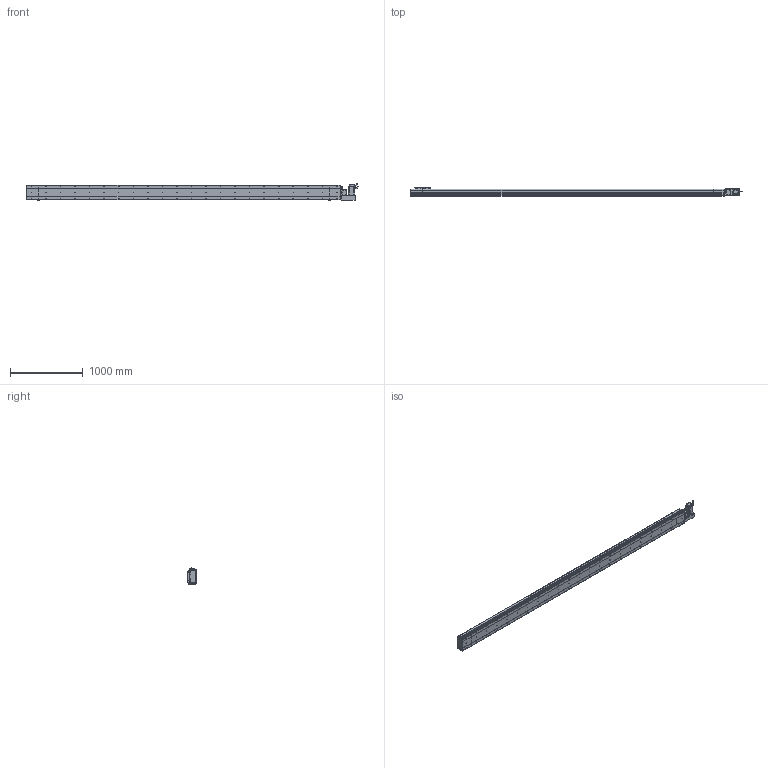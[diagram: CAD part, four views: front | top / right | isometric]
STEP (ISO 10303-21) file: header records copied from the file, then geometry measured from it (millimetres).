
FILE_DESCRIPTION (( 'STEP AP214' ), '1' );
FILE_NAME ('D20 CBH RH S4000.STEP', '2010-06-30T11:19:16', ( 'Conseil Régional Haute-Normandie' ), ( 'Conseil Régional Haute-Normandie' ), 'SwSTEP 2.0', 'SolidWorks 2010', '' );
FILE_SCHEMA (( 'AUTOMOTIVE_DESIGN' ));
Length unit declared in the file: millimetre
Products named in the file (31): Conecteur2_Default; Corp Tail D20 RH_Default; Conecteur_Default; vis M5 L30_Default; Cache Support Moteur RH_Default; vis M5 L15_Default; Couvercle RH_Default; Plaque de Bout Head D20 RH_Default; Head D20 RH_Default; Moteur motionking 90BLDC125A-640; avant 90BLDC125A-640; Corp D20 S4000_Default; Corp S4000_Default; vis M5 L47_Default; Couvercle S4000_Default; Chariot D20_Default; Glissiere_Default; Support Chariot D20_Default; Corp Tail D20_Default; Tail D20_Default; Couvercle_Default; Plaque De Serrage D20_Default; Plaque de Bout Tail D20_Default; corps 90BLDC125A-640; D20 CBH RH S4000; codeur 90BLDC125-640; Rondelle Cache D20 RH_Default; Plaque De Serrage D20 RH_Default; Support moteur RH_Default; ecrou_Default
Assembly tree (68 placements, depth 4):
  D20 CBH RH S4000
    Tail D20_Default
      vis M5 L15_Default  x6
      Couvercle_Default
      Plaque De Serrage D20_Default
      Plaque de Bout Tail D20_Default
      Corp Tail D20_Default
    Corp D20 S4000_Default
      Corp S4000_Default
      Couvercle S4000_Default
    Head D20 RH_Default
      vis M5 L15_Default  x14
      ecrou_Default  x4
      vis M5 L47_Default  x4
      Rondelle Cache D20 RH_Default  x3
      vis M5 L30_Default  x4
      Support moteur RH_Default
      Moteur motionking 90BLDC125A-640
        Conecteur_Default
        Conecteur2_Default
        codeur 90BLDC125-640
        avant 90BLDC125A-640
        corps 90BLDC125A-640
      Cache Support Moteur RH_Default
      Plaque De Serrage D20 RH_Default
      Plaque de Bout Head D20 RH_Default
      Couvercle RH_Default
      Corp Tail D20 RH_Default
    Chariot D20_Default
      vis M5 L15_Default  x8
      Support Chariot D20_Default
      Chariot D20_Default
      Glissiere_Default
Bounding box: 4565.45 x 119.5 x 229.7 mm (x, y, z)
Volume: 29559603.5 mm3; surface area: 5632065.5 mm2
Topology: 105 solids, 105 shells, 3907 faces, 9678 edges, 6286 vertices
Faces by surface type: plane 2158, bspline 806, cylinder 772, torus 95, cone 72, sphere 4
Entity records: 161822 total; most frequent: CARTESIAN_POINT 82703, ORIENTED_EDGE 15624, DIRECTION 12094, EDGE_CURVE 7812, VERTEX_POINT 5170, VECTOR 4996, LINE 4996, AXIS2_PLACEMENT_3D 3549
